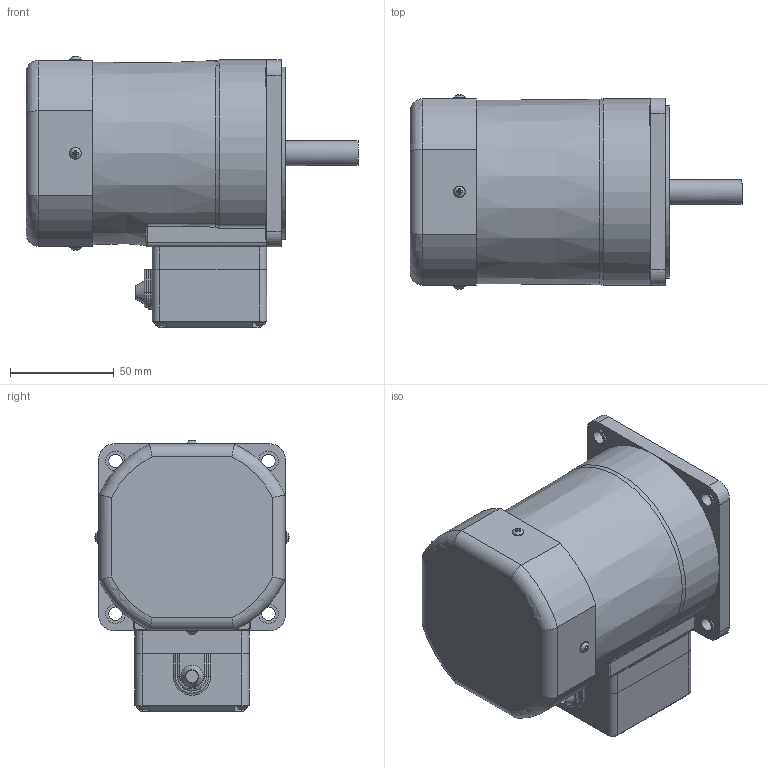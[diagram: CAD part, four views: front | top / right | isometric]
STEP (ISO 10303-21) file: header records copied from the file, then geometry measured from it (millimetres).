
FILE_DESCRIPTION((''),'2;1');
FILE_NAME('D:\김성묵\업무폴더\개발 파일\프로젝트 개발 AB등급\AC표준형 개발자료\90각 이하 표준형 개발\도면작성 자료\3D 도면\홈페이지용 3D 파일\60W MOTOR\T1 BOX TYPE\S9(I,R)60K-T1.stp','2015-03-26T18:36:53',('smkim'),(''),'Autodesk Inventor 2012','Autodesk Inventor 2012','');
FILE_SCHEMA(('AUTOMOTIVE_DESIGN { 1 0 10303 214 1 1 1 1 }'));
Length unit declared in the file: millimetre
Products named in the file (9): S9(I,R)60K-T1; S9I60GㅁTCE; FAN COVER; 552300620; 80 각 T1 BOX_CORD BUSH; 25W T1 BOX CORD BUSH G; 80각 T1 BOX; S9I60K
Assembly tree (15 placements, depth 3):
  S9(I,R)60K-T1
    S9I60GㅁTCE
    FAN COVER
      FAN COVER
      552300620  x4
    80 각 T1 BOX_CORD BUSH
      25W T1 BOX CORD BUSH G
      80각 T1 BOX
    552300620  x4
    S9I60K
Bounding box: 159.8 x 93.49 x 130.75 mm (x, y, z)
Volume: 1012951.5 mm3; surface area: 109371.1 mm2
Topology: 14 solids, 14 shells, 381 faces, 912 edges, 584 vertices
Faces by surface type: plane 219, cylinder 94, torus 27, bspline 26, cone 15
Full cylindrical faces by diameter (mm): 3 x12, 3.5 x4, 5.6 x8, 6.5 x4, 8 x1, 9.5 x4, 12 x1, 40 x1, 83 x1, 86 x1
Entity records: 7610 total; most frequent: CARTESIAN_POINT 2020, DIRECTION 1122, ORIENTED_EDGE 1040, EDGE_CURVE 520, AXIS2_PLACEMENT_3D 427, VERTEX_POINT 356, EDGE_LOOP 300, VECTOR 268
